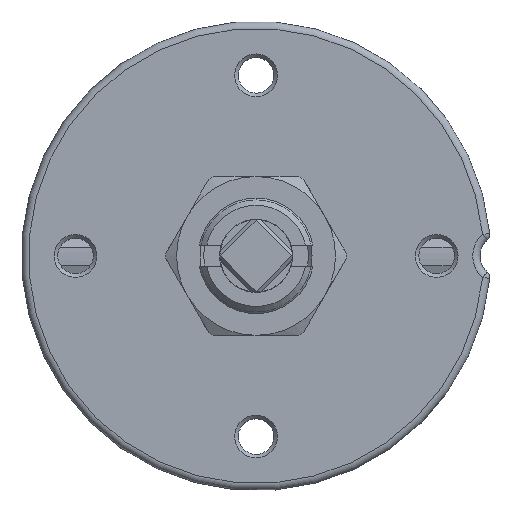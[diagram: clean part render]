
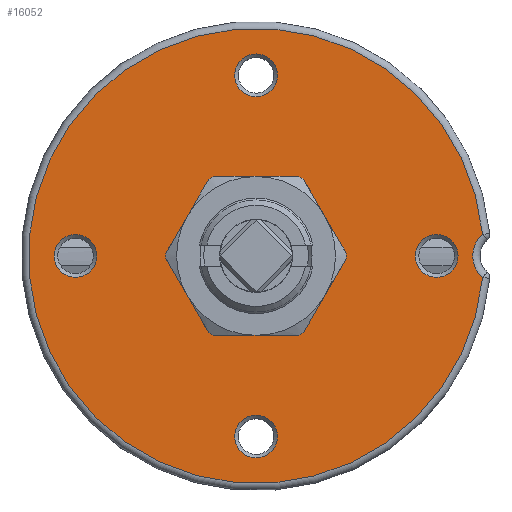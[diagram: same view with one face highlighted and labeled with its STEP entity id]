
A CAD part, top view. The second image highlights one B-rep face of the part: STEP entity #16052.
In plain terms, the highlighted planar face has unit normal (0, 0, 1) as drawn and (-1, 0, 0) by its records, which use the part's own axes.
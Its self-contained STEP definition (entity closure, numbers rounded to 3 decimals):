
#15968=CARTESIAN_POINT('',(-12.5,2.959,-25.0));
#15969=VERTEX_POINT('',#15968);
#15970=CARTESIAN_POINT('',(-12.5,0.,-25.0));
#15971=DIRECTION('',(-1.0,0.0,0.0));
#15972=DIRECTION('',(0.0,-1.0,0.0));
#15973=AXIS2_PLACEMENT_3D('',#15970,#15971,#15972);
#15974=CIRCLE('',#15973,2.959);
#15975=EDGE_CURVE('',#15969,#15969,#15974,.T.);
#15980=CARTESIAN_POINT('',(-12.5,16.25,0.0));
#15981=DIRECTION('',(-1.0,0.0,0.0));
#15982=DIRECTION('',(0.0,0.0,1.0));
#15983=AXIS2_PLACEMENT_3D('',#15980,#15981,#15982);
#15984=PLANE('',#15983);
#15985=CARTESIAN_POINT('',(-12.5,3.002,31.357));
#15986=VERTEX_POINT('',#15985);
#15987=CARTESIAN_POINT('',(-12.5,-3.002,31.357));
#15988=VERTEX_POINT('',#15987);
#15989=CARTESIAN_POINT('',(-12.5,0.,34.0));
#15990=DIRECTION('',(-1.0,0.0,0.0));
#15991=DIRECTION('',(0.0,0.0,-1.0));
#15992=AXIS2_PLACEMENT_3D('',#15989,#15990,#15991);
#15993=CIRCLE('',#15992,4.0);
#15994=EDGE_CURVE('',#15986,#15988,#15993,.T.);
#15995=ORIENTED_EDGE('',*,*,#15994,.F.);
#15996=CARTESIAN_POINT('',(-12.5,0.,0.0));
#15997=DIRECTION('',(1.0,0.0,0.0));
#15998=DIRECTION('',(0.0,-1.0,0.0));
#15999=AXIS2_PLACEMENT_3D('',#15996,#15997,#15998);
#16000=CIRCLE('',#15999,31.5);
#16001=EDGE_CURVE('',#15988,#15986,#16000,.T.);
#16002=ORIENTED_EDGE('',*,*,#16001,.F.);
#16003=EDGE_LOOP('',(#15995,#16002));
#16004=FACE_OUTER_BOUND('',#16003,.T.);
#16005=CARTESIAN_POINT('',(-12.5,27.958,0.));
#16006=VERTEX_POINT('',#16005);
#16007=CARTESIAN_POINT('',(-12.5,25.0,0.0));
#16008=DIRECTION('',(-1.0,0.0,0.0));
#16009=DIRECTION('',(0.0,-1.0,0.0));
#16010=AXIS2_PLACEMENT_3D('',#16007,#16008,#16009);
#16011=CIRCLE('',#16010,2.958);
#16012=EDGE_CURVE('',#16006,#16006,#16011,.T.);
#16013=ORIENTED_EDGE('',*,*,#16012,.F.);
#16014=EDGE_LOOP('',(#16013));
#16015=FACE_BOUND('',#16014,.T.);
#16016=CARTESIAN_POINT('',(-12.5,2.959,25.0));
#16017=VERTEX_POINT('',#16016);
#16018=CARTESIAN_POINT('',(-12.5,0.,25.0));
#16019=DIRECTION('',(-1.0,0.0,0.0));
#16020=DIRECTION('',(0.0,-1.0,0.0));
#16021=AXIS2_PLACEMENT_3D('',#16018,#16019,#16020);
#16022=CIRCLE('',#16021,2.959);
#16023=EDGE_CURVE('',#16017,#16017,#16022,.T.);
#16024=ORIENTED_EDGE('',*,*,#16023,.F.);
#16025=EDGE_LOOP('',(#16024));
#16026=FACE_BOUND('',#16025,.T.);
#16027=CARTESIAN_POINT('',(-12.5,-8.,0.));
#16028=VERTEX_POINT('',#16027);
#16029=CARTESIAN_POINT('',(-12.5,0.,0.0));
#16030=DIRECTION('',(1.0,0.0,0.0));
#16031=DIRECTION('',(0.0,1.0,0.0));
#16032=AXIS2_PLACEMENT_3D('',#16029,#16030,#16031);
#16033=CIRCLE('',#16032,8.0);
#16034=EDGE_CURVE('',#16028,#16028,#16033,.T.);
#16035=ORIENTED_EDGE('',*,*,#16034,.T.);
#16036=EDGE_LOOP('',(#16035));
#16037=FACE_BOUND('',#16036,.T.);
#16038=CARTESIAN_POINT('',(-12.5,-22.042,0.));
#16039=VERTEX_POINT('',#16038);
#16040=CARTESIAN_POINT('',(-12.5,-25.0,0.0));
#16041=DIRECTION('',(-1.0,0.0,0.0));
#16042=DIRECTION('',(0.0,-1.0,0.0));
#16043=AXIS2_PLACEMENT_3D('',#16040,#16041,#16042);
#16044=CIRCLE('',#16043,2.958);
#16045=EDGE_CURVE('',#16039,#16039,#16044,.T.);
#16046=ORIENTED_EDGE('',*,*,#16045,.F.);
#16047=EDGE_LOOP('',(#16046));
#16048=FACE_BOUND('',#16047,.T.);
#16049=ORIENTED_EDGE('',*,*,#15975,.F.);
#16050=EDGE_LOOP('',(#16049));
#16051=FACE_BOUND('',#16050,.T.);
#16052=ADVANCED_FACE('',(#16004,#16015,#16026,#16037,#16048,#16051),#15984,.T.);
